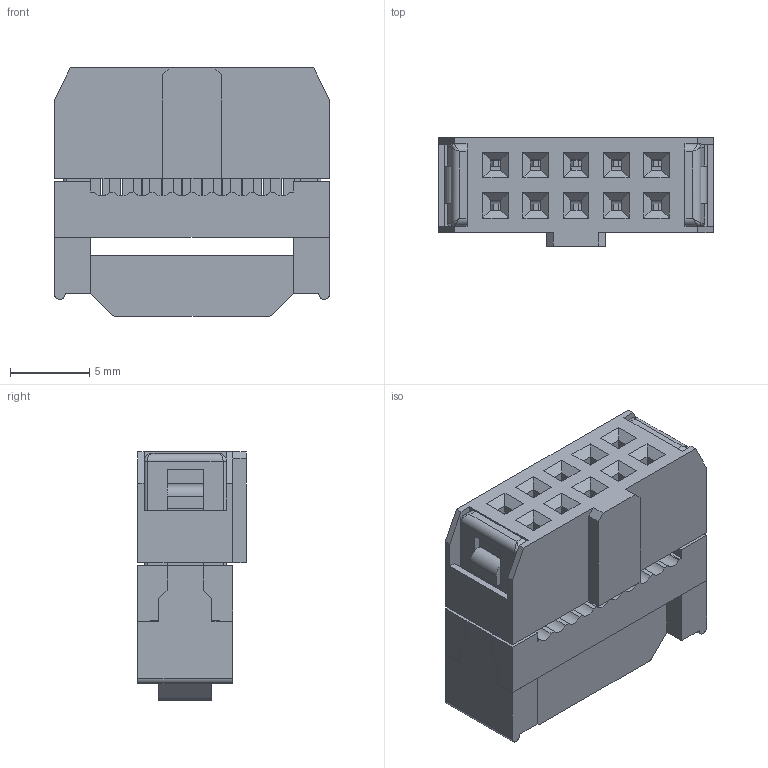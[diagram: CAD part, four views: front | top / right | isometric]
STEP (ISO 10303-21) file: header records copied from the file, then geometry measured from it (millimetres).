
FILE_DESCRIPTION(('FreeCAD Model'),'2;1');
FILE_NAME('C:/Users/Metaltex-99/Desktop/L-10.stp','2020-12-09T08:15:22', ('Engenharia Metaltex'),('Metaltex'),'Open CASCADE STEP processor 7.3' ,'FreeCAD','Unknown');
FILE_SCHEMA(('AUTOMOTIVE_DESIGN { 1 0 10303 214 1 1 1 1 }'));
Length unit declared in the file: millimetre
Products named in the file (4): L-10; 2; 3; 1
Assembly tree (3 placements, depth 2):
  L-10
    2
    3
    1
Bounding box: 17.38 x 6.86 x 15.7 mm (x, y, z)
Volume: 629.7 mm3; surface area: 2404.7 mm2
Topology: 2 solids, 13 shells, 751 faces, 2061 edges, 1334 vertices
Faces by surface type: plane 569, cylinder 162, extrusion 8, sphere 4, torus 4, bspline 4
Entity records: 51803 total; most frequent: CARTESIAN_POINT 10216, DIRECTION 7740, VECTOR 5318, LINE 5310, ORIENTED_EDGE 4114, PCURVE 4114, DEFINITIONAL_REPRESENTATION 4114, EDGE_CURVE 2057
